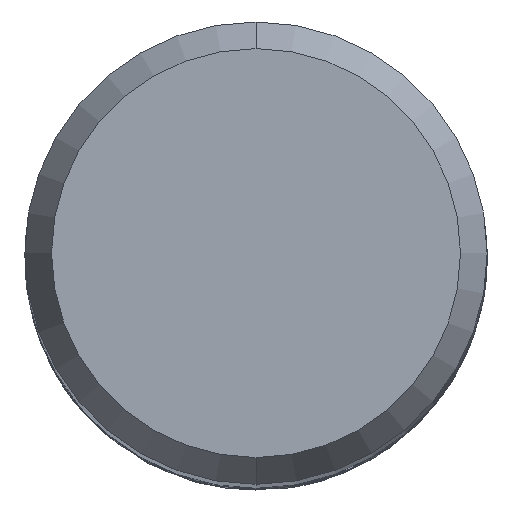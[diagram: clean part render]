
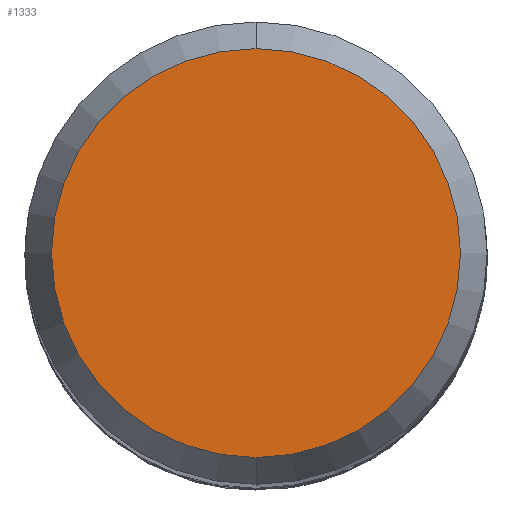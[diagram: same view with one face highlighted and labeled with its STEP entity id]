
A CAD part, top view. The second image highlights one B-rep face of the part: STEP entity #1333.
In plain terms, the highlighted planar face has unit normal (0, 0, 1).
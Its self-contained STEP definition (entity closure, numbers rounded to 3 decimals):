
#667=VERTEX_POINT('',#1846);
#999=EDGE_CURVE('',#1577,#667,#2218,.T.);
#1331=EDGE_CURVE('',#667,#1577,#2576,.T.);
#1333=ADVANCED_FACE('',(#2578),#2579,.T.);
#1577=VERTEX_POINT('',#2837);
#1846=CARTESIAN_POINT('',(0.0,3.538,0.0));
#2218=CIRCLE('',#6631,3.538);
#2576=CIRCLE('',#9467,3.538);
#2578=FACE_OUTER_BOUND('',#9469,.T.);
#2579=PLANE('',#9470);
#2837=CARTESIAN_POINT('',(0.,-3.538,0.0));
#6631=AXIS2_PLACEMENT_3D('',#14123,#14124,#14125);
#9467=AXIS2_PLACEMENT_3D('',#14480,#14481,#14482);
#9469=EDGE_LOOP('',(#14484,#14485));
#9470=AXIS2_PLACEMENT_3D('',#14486,#14487,#14488);
#14123=CARTESIAN_POINT('',(0.0,0.0,0.0));
#14124=DIRECTION('',(0.0,0.0,-1.0));
#14125=DIRECTION('',(0.0,1.0,0.0));
#14480=CARTESIAN_POINT('',(0.0,0.0,0.0));
#14481=DIRECTION('',(0.0,0.0,-1.0));
#14482=DIRECTION('',(0.0,1.0,0.0));
#14484=ORIENTED_EDGE('',*,*,#1331,.F.);
#14485=ORIENTED_EDGE('',*,*,#999,.F.);
#14486=CARTESIAN_POINT('',(0.0,1.769,0.0));
#14487=DIRECTION('',(-0.0,0.0,1.0));
#14488=DIRECTION('',(0.0,-1.0,0.0));
